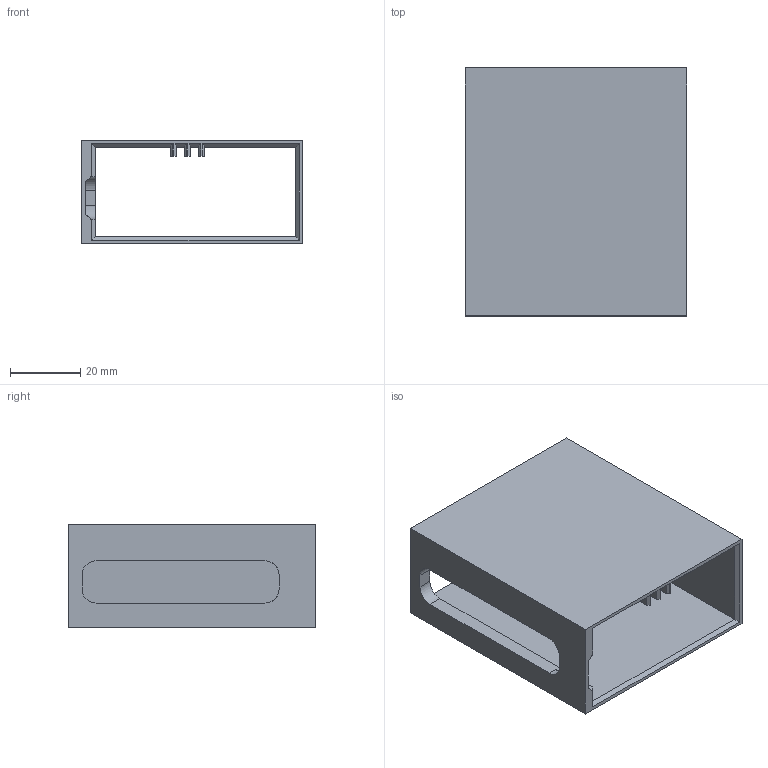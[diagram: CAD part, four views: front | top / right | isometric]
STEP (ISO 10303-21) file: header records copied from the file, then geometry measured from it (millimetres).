
FILE_DESCRIPTION(/* description */ (''),/* implementation_level */ '2;1');
FILE_NAME(/* name */ 'RPi Slot v11.step',/* time_stamp */ '2024-02-11T13:11:32+01:00',/* author */ (''),/* organization */ (''),/* preprocessor_version */ 'ST-DEVELOPER v20',/* originating_system */ 'Autodesk Translation Framework v12.14.0.127',/* authorisation */ '');
FILE_SCHEMA (('AUTOMOTIVE_DESIGN { 1 0 10303 214 3 1 1 }'));
Length unit declared in the file: millimetre
Products named in the file (1): RPi Slot
Bounding box: 63 x 70.5 x 29.4 mm (x, y, z)
Volume: 25660 mm3; surface area: 24826.6 mm2
Topology: 1 solids, 1 shells, 50 faces, 143 edges, 94 vertices
Faces by surface type: plane 46, cylinder 4
Entity records: 1646 total; most frequent: CARTESIAN_POINT 288, ORIENTED_EDGE 286, DIRECTION 255, EDGE_CURVE 143, LINE 133, VECTOR 133, VERTEX_POINT 94, AXIS2_PLACEMENT_3D 61
